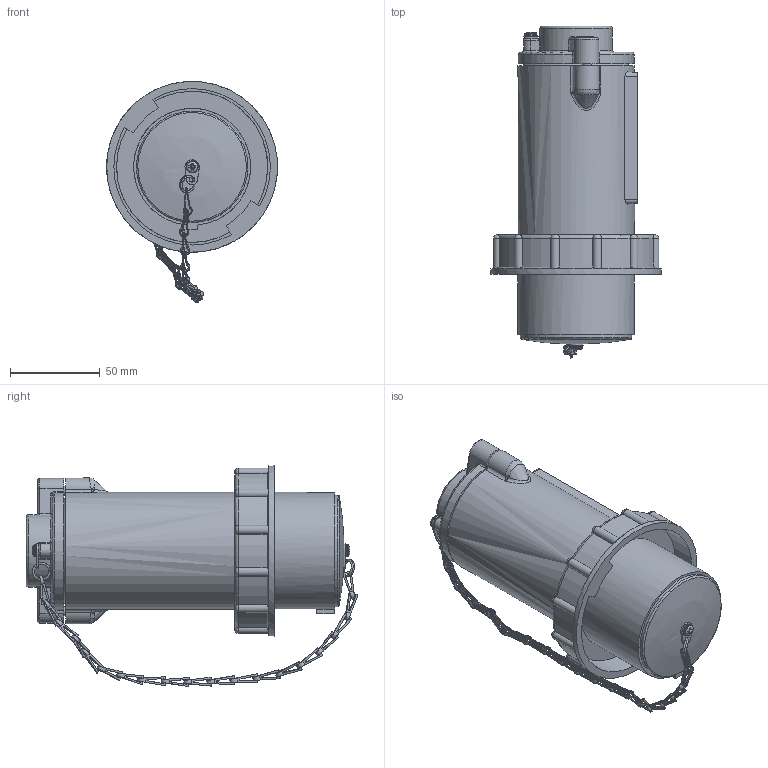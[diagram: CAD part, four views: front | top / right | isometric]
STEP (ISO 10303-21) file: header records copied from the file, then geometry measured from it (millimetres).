
FILE_DESCRIPTION((''),'2;1');
FILE_NAME('C:\Users\L.A.Ronzhin\Desktop\Публикации\ВГМ-32-415-4.stp','2020-07-02T08:49:12',('L.A.Ronzhin'),(''),'Autodesk Inventor 2012','Autodesk Inventor 2012','');
FILE_SCHEMA(('AUTOMOTIVE_DESIGN { 1 0 10303 214 1 1 1 1 }'));
Length unit declared in the file: millimetre
Products named in the file (1): ВГМ-32-415-4
Bounding box: 94.85 x 184.45 x 122.89 mm (x, y, z)
Volume: 591415 mm3; surface area: 74012.4 mm2
Topology: 17 solids, 17 shells, 950 faces, 2586 edges, 1675 vertices
Faces by surface type: plane 470, cylinder 390, bspline 41, torus 24, cone 19, sphere 6
Full cylindrical faces by diameter (mm): 1.5 x4, 3 x2, 5 x4, 6 x2, 6.5 x2, 6.7 x2, 8.5 x2, 9.5 x2, 40.3 x1, 62 x1, 65 x2, 84 x1, 87 x1, 95 x1
Entity records: 33495 total; most frequent: CARTESIAN_POINT 8180, DIRECTION 5095, ORIENTED_EDGE 5036, EDGE_CURVE 2518, AXIS2_PLACEMENT_3D 1831, VERTEX_POINT 1657, VECTOR 1433, LINE 1433
